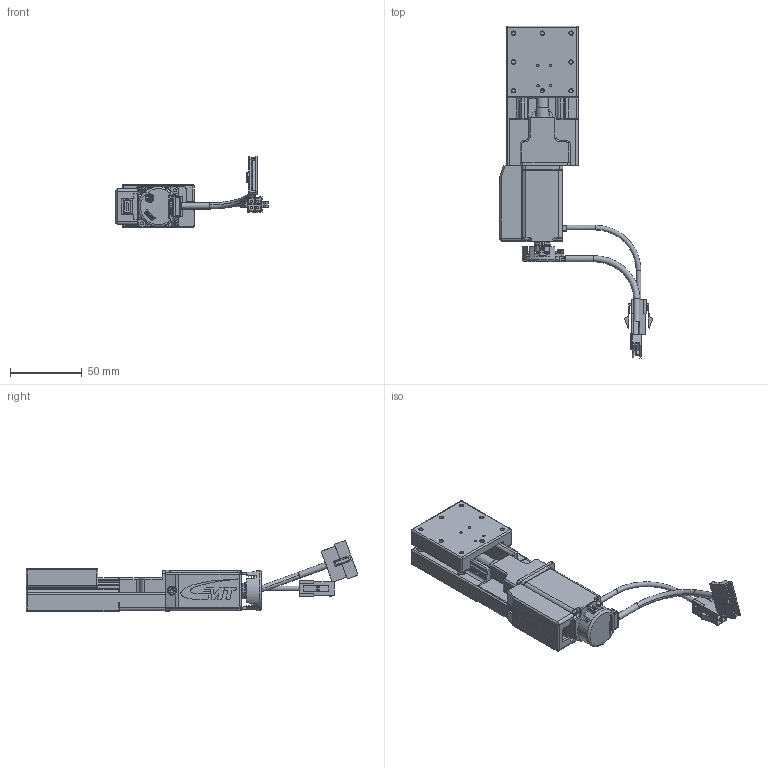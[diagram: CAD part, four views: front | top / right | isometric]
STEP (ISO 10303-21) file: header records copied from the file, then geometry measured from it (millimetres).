
FILE_DESCRIPTION(/* description */ (''),/* implementation_level */ '2;1');
FILE_NAME(/* name */ 'CXS5030-Ezi-Servo-PR-28M',/* time_stamp */ '2023-02-09T21:08:37+01:00',/* author */ (''),/* organization */ ('GMT Europe'),/* preprocessor_version */ 'ST-DEVELOPER v16.7',/* originating_system */ 'Solid Edge',/* authorisation */ 'Unknown');
FILE_SCHEMA (('AUTOMOTIVE_DESIGN {1 0 10303 214 3 1 1}'));
Products named in the file (24): CXS5030-Ezi-Servo-PR-28M; CXS5030; Group1^CXS5030-S 模糊化_0; Group2^CXS5030-S 模糊化_0; Motorflansch-ix-001; ISO 4762_M2,5x5_8.8; ISO 4762_M3x10_8.8; Ezi-SERVO-Plus-R; 馨檜蝶; SW3dPS-R28i_R28i_Hub; SW3dPS-R28i_R28i_Disk; SW3dPS-R28i_R28i_PCB; SW3dPS-R28i_Connector; SW3dPS-R28i_R28i_BaseStandoff; SW3dPS-R28i_R28i_LeadFrame; SW3dPS-R28i_R28i_Cover; encoder_cable_28; 馨檜綰; Power_Cable_20; M11-MO-028-03-R01; Gehäuse-ix-001; Platine-ix-001; PCB ix Industrial-001; 09452819001
Assembly tree (23 placements, depth 4):
  CXS5030-Ezi-Servo-PR-28M
    CXS5030
      Group1^CXS5030-S 模糊化_0
      Group2^CXS5030-S 模糊化_0
    Motorflansch-ix-001
    ISO 4762_M2,5x5_8.8
    ISO 4762_M3x10_8.8
    Ezi-SERVO-Plus-R
      馨檜蝶
        SW3dPS-R28i_R28i_Hub
        SW3dPS-R28i_R28i_Disk
        SW3dPS-R28i_R28i_PCB
        SW3dPS-R28i_Connector
        SW3dPS-R28i_R28i_BaseStandoff
        SW3dPS-R28i_R28i_LeadFrame
        SW3dPS-R28i_R28i_Cover
        encoder_cable_28
      馨檜綰
        Power_Cable_20
      M11-MO-028-03-R01
    Gehäuse-ix-001
    Platine-ix-001
      PCB ix Industrial-001
      09452819001
Bounding box: 106.21 x 230.69 x 49.45 mm (x, y, z)
Volume: 145353.5 mm3; surface area: 68065.9 mm2
Topology: 17 solids, 17 shells, 3898 faces, 10640 edges, 6985 vertices
Faces by surface type: plane 2814, cylinder 823, bspline 126, cone 80, torus 38, sphere 17
Full cylindrical faces by diameter (mm): 0.9 x54, 1 x15, 1.4 x54, 1.45 x2, 1.5 x4, 1.57 x1, 1.6 x5, 2.013 x2, 2.05 x4, 2.1 x2, 2.459 x1, 2.5 x9, 2.8 x4, 3 x2, 3.172 x1, 3.2 x1, 3.3 x2, 3.5 x5, 3.8 x1, 4.3 x2, 4.68 x1, 5 x3, 5.5 x6, 6 x3, 6.2 x1, 8 x2, 8.5 x1, 8.69 x1, 8.7 x1, 9.5 x1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
Entity records: 135077 total; most frequent: CARTESIAN_POINT 26794, ORIENTED_EDGE 20578, DIRECTION 19351, EDGE_CURVE 10289, LINE 8117, VECTOR 8117, VERTEX_POINT 6915, AXIS2_PLACEMENT_3D 5617
